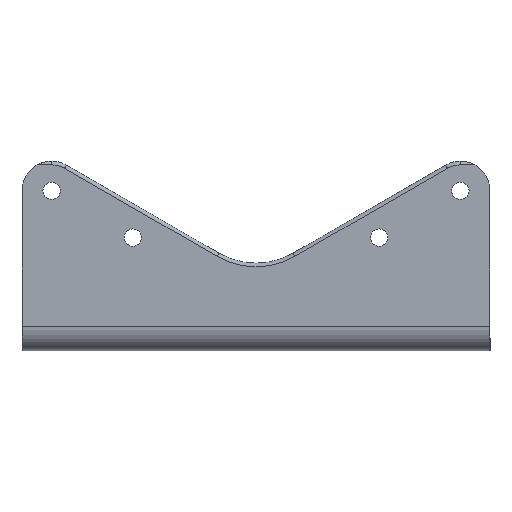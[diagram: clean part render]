
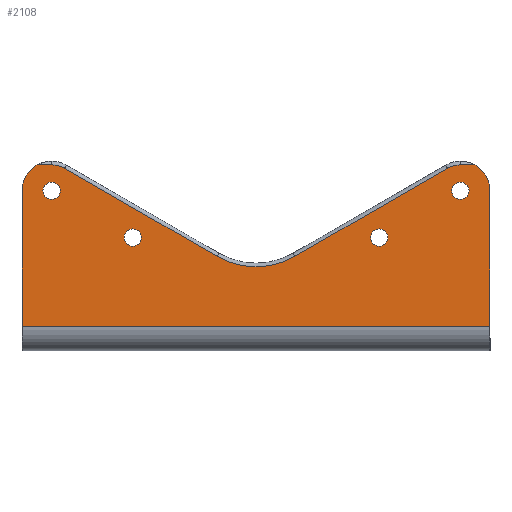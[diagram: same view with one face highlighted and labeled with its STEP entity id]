
A CAD part, front view. The second image highlights one B-rep face of the part: STEP entity #2108.
In plain terms, the highlighted planar face has unit normal (0, -1, 0).
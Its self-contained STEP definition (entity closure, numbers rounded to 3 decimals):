
#10 = EDGE_CURVE ( 'NONE', #2155, #2155, #175, .T. ) ;
#12 = CARTESIAN_POINT ( 'NONE',  ( -95., -62.5, 5. ) ) ;
#16 = DIRECTION ( 'NONE',  ( 0., 0., 1. ) ) ;
#32 = CIRCLE ( 'NONE', #2527, 3.5 ) ;
#68 = LINE ( 'NONE', #2039, #1276 ) ;
#77 = AXIS2_PLACEMENT_3D ( 'NONE', #1612, #2118, #2994 ) ;
#87 = CIRCLE ( 'NONE', #3115, 10.5 ) ;
#129 = VERTEX_POINT ( 'NONE', #1266 ) ;
#137 = AXIS2_PLACEMENT_3D ( 'NONE', #531, #2843, #1407 ) ;
#144 = CARTESIAN_POINT ( 'NONE',  ( -77.711, -62.5, 69.093 ) ) ;
#158 = ORIENTED_EDGE ( 'NONE', *, *, #2305, .T. ) ;
#174 = FACE_BOUND ( 'NONE', #1582, .T. ) ;
#175 = CIRCLE ( 'NONE', #1121, 3.5 ) ;
#211 = DIRECTION ( 'NONE',  ( 0., 0., 1. ) ) ;
#212 = AXIS2_PLACEMENT_3D ( 'NONE', #2460, #3318, #211 ) ;
#213 = FACE_BOUND ( 'NONE', #516, .T. ) ;
#239 = EDGE_LOOP ( 'NONE', ( #2413 ) ) ;
#283 = DIRECTION ( 'NONE',  ( -0.866, 0., -0.5 ) ) ;
#286 = EDGE_CURVE ( 'NONE', #2860, #411, #3209, .T. ) ;
#301 = ORIENTED_EDGE ( 'NONE', *, *, #2188, .T. ) ;
#329 = VERTEX_POINT ( 'NONE', #426 ) ;
#356 = CARTESIAN_POINT ( 'NONE',  ( -50., -62.5, 41. ) ) ;
#362 = ORIENTED_EDGE ( 'NONE', *, *, #2658, .T. ) ;
#411 = VERTEX_POINT ( 'NONE', #144 ) ;
#422 = CARTESIAN_POINT ( 'NONE',  ( 88.809, -62.5, 70.5 ) ) ;
#426 = CARTESIAN_POINT ( 'NONE',  ( 15.75, -62.5, 33.32 ) ) ;
#428 = ORIENTED_EDGE ( 'NONE', *, *, #2647, .T. ) ;
#437 = ORIENTED_EDGE ( 'NONE', *, *, #10, .T. ) ;
#489 = EDGE_CURVE ( 'NONE', #1215, #903, #2933, .T. ) ;
#505 = VECTOR ( 'NONE', #2250, 1000. ) ;
#516 = EDGE_LOOP ( 'NONE', ( #362 ) ) ;
#531 = CARTESIAN_POINT ( 'NONE',  ( 0., -62.5, 0. ) ) ;
#544 = CARTESIAN_POINT ( 'NONE',  ( -95., -62.5, 5. ) ) ;
#571 = CIRCLE ( 'NONE', #2641, 31.5 ) ;
#618 = AXIS2_PLACEMENT_3D ( 'NONE', #2774, #1394, #16 ) ;
#724 = ORIENTED_EDGE ( 'NONE', *, *, #489, .F. ) ;
#773 = PLANE ( 'NONE',  #137 ) ;
#808 = CARTESIAN_POINT ( 'NONE',  ( 50., -62.5, 41. ) ) ;
#821 = DIRECTION ( 'NONE',  ( 0., 1., 0. ) ) ;
#841 = CARTESIAN_POINT ( 'NONE',  ( 0., -62.5, 70.5 ) ) ;
#878 = DIRECTION ( 'NONE',  ( 0., 0., 1. ) ) ;
#903 = VERTEX_POINT ( 'NONE', #1657 ) ;
#915 = VECTOR ( 'NONE', #1041, 1000. ) ;
#922 = ORIENTED_EDGE ( 'NONE', *, *, #2322, .T. ) ;
#960 = CARTESIAN_POINT ( 'NONE',  ( 10.491, -62.5, 18.17 ) ) ;
#1027 = VECTOR ( 'NONE', #1494, 1000. ) ;
#1041 = DIRECTION ( 'NONE',  ( -1., 0., 0. ) ) ;
#1090 = CIRCLE ( 'NONE', #3392, 12. ) ;
#1121 = AXIS2_PLACEMENT_3D ( 'NONE', #3214, #2981, #2722 ) ;
#1151 = CARTESIAN_POINT ( 'NONE',  ( 83., -62.5, 60. ) ) ;
#1162 = EDGE_CURVE ( 'NONE', #1614, #1614, #1673, .T. ) ;
#1215 = VERTEX_POINT ( 'NONE', #3350 ) ;
#1266 = CARTESIAN_POINT ( 'NONE',  ( -50., -62.5, 44.5 ) ) ;
#1276 = VECTOR ( 'NONE', #283, 1000. ) ;
#1310 = FACE_BOUND ( 'NONE', #3191, .T. ) ;
#1314 = ORIENTED_EDGE ( 'NONE', *, *, #286, .T. ) ;
#1349 = CARTESIAN_POINT ( 'NONE',  ( -95., -62.5, 0. ) ) ;
#1350 = EDGE_CURVE ( 'NONE', #3246, #3246, #2628, .T. ) ;
#1363 = DIRECTION ( 'NONE',  ( 0., 1., 0. ) ) ;
#1391 = CARTESIAN_POINT ( 'NONE',  ( 95., -62.5, 60. ) ) ;
#1394 = DIRECTION ( 'NONE',  ( 0., 1., 0. ) ) ;
#1407 = DIRECTION ( 'NONE',  ( 0., 0., 1. ) ) ;
#1444 = CARTESIAN_POINT ( 'NONE',  ( 0., -62.5, 70.5 ) ) ;
#1459 = DIRECTION ( 'NONE',  ( 0., 0., 1. ) ) ;
#1494 = DIRECTION ( 'NONE',  ( -1., 0., 0. ) ) ;
#1502 = AXIS2_PLACEMENT_3D ( 'NONE', #808, #821, #1670 ) ;
#1542 = ORIENTED_EDGE ( 'NONE', *, *, #3145, .T. ) ;
#1582 = EDGE_LOOP ( 'NONE', ( #2508 ) ) ;
#1612 = CARTESIAN_POINT ( 'NONE',  ( -83., -62.5, 60. ) ) ;
#1614 = VERTEX_POINT ( 'NONE', #3571 ) ;
#1633 = CARTESIAN_POINT ( 'NONE',  ( -83., -62.5, 63.5 ) ) ;
#1635 = CARTESIAN_POINT ( 'NONE',  ( -82.961, -62.5, 60. ) ) ;
#1657 = CARTESIAN_POINT ( 'NONE',  ( 82.961, -62.5, 70.5 ) ) ;
#1670 = DIRECTION ( 'NONE',  ( 0., 0., -1. ) ) ;
#1673 = CIRCLE ( 'NONE', #1502, 3.5 ) ;
#1724 = DIRECTION ( 'NONE',  ( -0.866, 0., 0.5 ) ) ;
#1842 = CARTESIAN_POINT ( 'NONE',  ( 95., -62.5, 5. ) ) ;
#1888 = CARTESIAN_POINT ( 'NONE',  ( -15.75, -62.5, 33.32 ) ) ;
#1889 = EDGE_CURVE ( 'NONE', #3647, #3520, #3467, .T. ) ;
#1912 = CARTESIAN_POINT ( 'NONE',  ( 83., -62.5, 56.5 ) ) ;
#2013 = DIRECTION ( 'NONE',  ( 0., -1., 0. ) ) ;
#2026 = CARTESIAN_POINT ( 'NONE',  ( -88.809, -62.5, 70.5 ) ) ;
#2039 = CARTESIAN_POINT ( 'NONE',  ( -10.491, -62.5, 18.17 ) ) ;
#2052 = CARTESIAN_POINT ( 'NONE',  ( 95., -62.5, 0. ) ) ;
#2108 = ADVANCED_FACE ( 'NONE', ( #3002, #174, #1310, #213, #3302 ), #773, .F. ) ;
#2118 = DIRECTION ( 'NONE',  ( 0., 1., 0. ) ) ;
#2155 = VERTEX_POINT ( 'NONE', #1912 ) ;
#2188 = EDGE_CURVE ( 'NONE', #2381, #2990, #3354, .T. ) ;
#2226 = ORIENTED_EDGE ( 'NONE', *, *, #1889, .T. ) ;
#2234 = LINE ( 'NONE', #841, #3570 ) ;
#2250 = DIRECTION ( 'NONE',  ( 0., 0., -1. ) ) ;
#2284 = VECTOR ( 'NONE', #878, 1000. ) ;
#2301 = EDGE_LOOP ( 'NONE', ( #158, #922, #3396, #724, #428, #2792, #1314, #2579, #2226, #1542, #301, #2884 ) ) ;
#2305 = EDGE_CURVE ( 'NONE', #3241, #3009, #3195, .T. ) ;
#2322 = EDGE_CURVE ( 'NONE', #3009, #2919, #1090, .T. ) ;
#2357 = CARTESIAN_POINT ( 'NONE',  ( 0., -62.5, 60.6 ) ) ;
#2375 = DIRECTION ( 'NONE',  ( 0., 1., 0. ) ) ;
#2381 = VERTEX_POINT ( 'NONE', #2609 ) ;
#2413 = ORIENTED_EDGE ( 'NONE', *, *, #1350, .T. ) ;
#2460 = CARTESIAN_POINT ( 'NONE',  ( -83., -62.5, 60. ) ) ;
#2477 = DIRECTION ( 'NONE',  ( -1., 0., 0. ) ) ;
#2508 = ORIENTED_EDGE ( 'NONE', *, *, #1162, .T. ) ;
#2515 = DIRECTION ( 'NONE',  ( 0., 0., 1. ) ) ;
#2527 = AXIS2_PLACEMENT_3D ( 'NONE', #356, #2901, #3454 ) ;
#2536 = EDGE_CURVE ( 'NONE', #3241, #2990, #3572, .T. ) ;
#2554 = EDGE_CURVE ( 'NONE', #3647, #411, #87, .T. ) ;
#2579 = ORIENTED_EDGE ( 'NONE', *, *, #2554, .F. ) ;
#2591 = EDGE_CURVE ( 'NONE', #2919, #903, #2234, .T. ) ;
#2609 = CARTESIAN_POINT ( 'NONE',  ( -95., -62.5, 60. ) ) ;
#2628 = CIRCLE ( 'NONE', #77, 3.5 ) ;
#2641 = AXIS2_PLACEMENT_3D ( 'NONE', #2357, #2375, #3487 ) ;
#2647 = EDGE_CURVE ( 'NONE', #1215, #329, #68, .T. ) ;
#2658 = EDGE_CURVE ( 'NONE', #129, #129, #32, .T. ) ;
#2722 = DIRECTION ( 'NONE',  ( 0., 0., -1. ) ) ;
#2774 = CARTESIAN_POINT ( 'NONE',  ( 82.961, -62.5, 60. ) ) ;
#2782 = EDGE_CURVE ( 'NONE', #329, #2860, #571, .T. ) ;
#2792 = ORIENTED_EDGE ( 'NONE', *, *, #2782, .T. ) ;
#2843 = DIRECTION ( 'NONE',  ( 0., 1., 0. ) ) ;
#2860 = VERTEX_POINT ( 'NONE', #1888 ) ;
#2884 = ORIENTED_EDGE ( 'NONE', *, *, #2536, .F. ) ;
#2901 = DIRECTION ( 'NONE',  ( 0., 1., 0. ) ) ;
#2919 = VERTEX_POINT ( 'NONE', #422 ) ;
#2933 = CIRCLE ( 'NONE', #618, 10.5 ) ;
#2981 = DIRECTION ( 'NONE',  ( 0., 1., 0. ) ) ;
#2990 = VERTEX_POINT ( 'NONE', #12 ) ;
#2994 = DIRECTION ( 'NONE',  ( 0., 0., 1. ) ) ;
#3002 = FACE_BOUND ( 'NONE', #239, .T. ) ;
#3009 = VERTEX_POINT ( 'NONE', #1391 ) ;
#3115 = AXIS2_PLACEMENT_3D ( 'NONE', #1635, #1363, #2515 ) ;
#3145 = EDGE_CURVE ( 'NONE', #3520, #2381, #3575, .T. ) ;
#3191 = EDGE_LOOP ( 'NONE', ( #437 ) ) ;
#3195 = LINE ( 'NONE', #2052, #2284 ) ;
#3209 = LINE ( 'NONE', #960, #3544 ) ;
#3214 = CARTESIAN_POINT ( 'NONE',  ( 83., -62.5, 60. ) ) ;
#3241 = VERTEX_POINT ( 'NONE', #1842 ) ;
#3246 = VERTEX_POINT ( 'NONE', #1633 ) ;
#3302 = FACE_OUTER_BOUND ( 'NONE', #2301, .T. ) ;
#3318 = DIRECTION ( 'NONE',  ( 0., -1., 0. ) ) ;
#3350 = CARTESIAN_POINT ( 'NONE',  ( 77.711, -62.5, 69.093 ) ) ;
#3354 = LINE ( 'NONE', #1349, #505 ) ;
#3392 = AXIS2_PLACEMENT_3D ( 'NONE', #1151, #2013, #1459 ) ;
#3396 = ORIENTED_EDGE ( 'NONE', *, *, #2591, .T. ) ;
#3454 = DIRECTION ( 'NONE',  ( 0., 0., 1. ) ) ;
#3467 = LINE ( 'NONE', #1444, #1027 ) ;
#3487 = DIRECTION ( 'NONE',  ( 0., 0., 1. ) ) ;
#3515 = CARTESIAN_POINT ( 'NONE',  ( -82.961, -62.5, 70.5 ) ) ;
#3520 = VERTEX_POINT ( 'NONE', #2026 ) ;
#3544 = VECTOR ( 'NONE', #1724, 1000. ) ;
#3570 = VECTOR ( 'NONE', #2477, 1000. ) ;
#3571 = CARTESIAN_POINT ( 'NONE',  ( 50., -62.5, 37.5 ) ) ;
#3572 = LINE ( 'NONE', #544, #915 ) ;
#3575 = CIRCLE ( 'NONE', #212, 12. ) ;
#3647 = VERTEX_POINT ( 'NONE', #3515 ) ;
